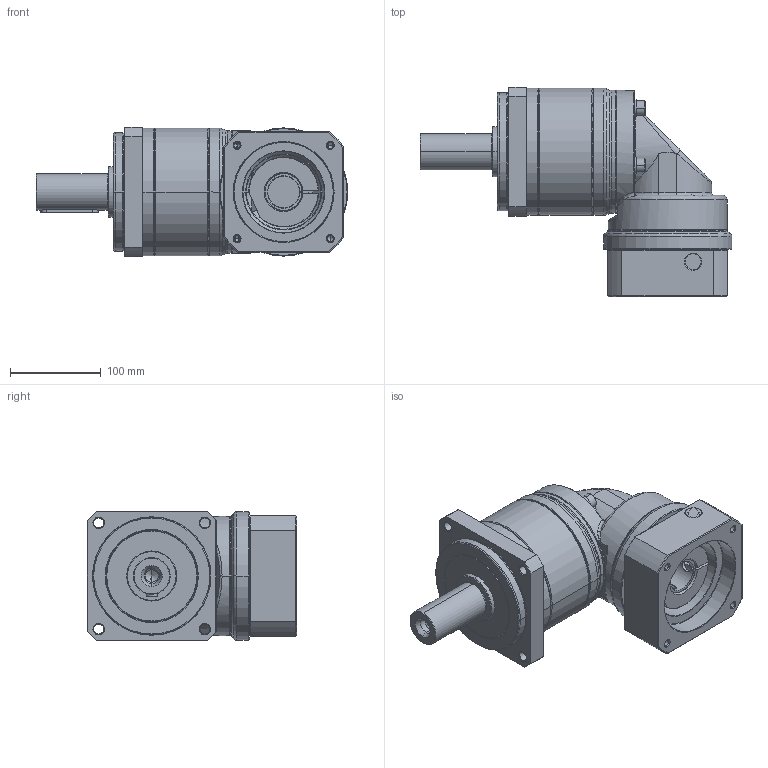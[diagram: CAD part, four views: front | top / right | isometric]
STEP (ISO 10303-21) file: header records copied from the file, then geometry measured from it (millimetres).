
FILE_DESCRIPTION((''),'2;1');
FILE_NAME('PA2R-142_1ST_35-P0411800101_ASM','2016-05-13T',('d01943'),(''),'PRO/ENGINEER BY PARAMETRIC TECHNOLOGY CORPORATION, 2008410','PRO/ENGINEER BY PARAMETRIC TECHNOLOGY CORPORATION, 2008410','');
FILE_SCHEMA(('CONFIG_CONTROL_DESIGN'));
Length unit declared in the file: millimetre
Products named in the file (12): P1327510001; P0250500001; P0350500601; P1349500001; P1017500001; P0713504001; P0503800010; P1350500401; P0411800101; P1702600001; 2111BA10040; PA2R-142_1ST_35-P0411800101_ASM
Assembly tree (14 placements, depth 2):
  PA2R-142_1ST_35-P0411800101_ASM
    P1327510001
    P0250500001
    P0350500601
    P1349500001
    P1017500001
    P0713504001
    P0503800010
    P1350500401
    P0411800101
    P1702600001
    2111BA10040  x4
Bounding box: 342.5 x 230.5 x 142 mm (x, y, z)
Volume: 3030766.3 mm3; surface area: 494480.6 mm2
Topology: 14 solids, 14 shells, 728 faces, 1605 edges, 929 vertices
Faces by surface type: cylinder 214, cone 210, plane 168, torus 104, bspline 32
Entity records: 23305 total; most frequent: CARTESIAN_POINT 9205, DIRECTION 3111, ORIENTED_EDGE 2738, EDGE_CURVE 1369, AXIS2_PLACEMENT_3D 1311, VERTEX_POINT 809, EDGE_LOOP 710, CIRCLE 688
